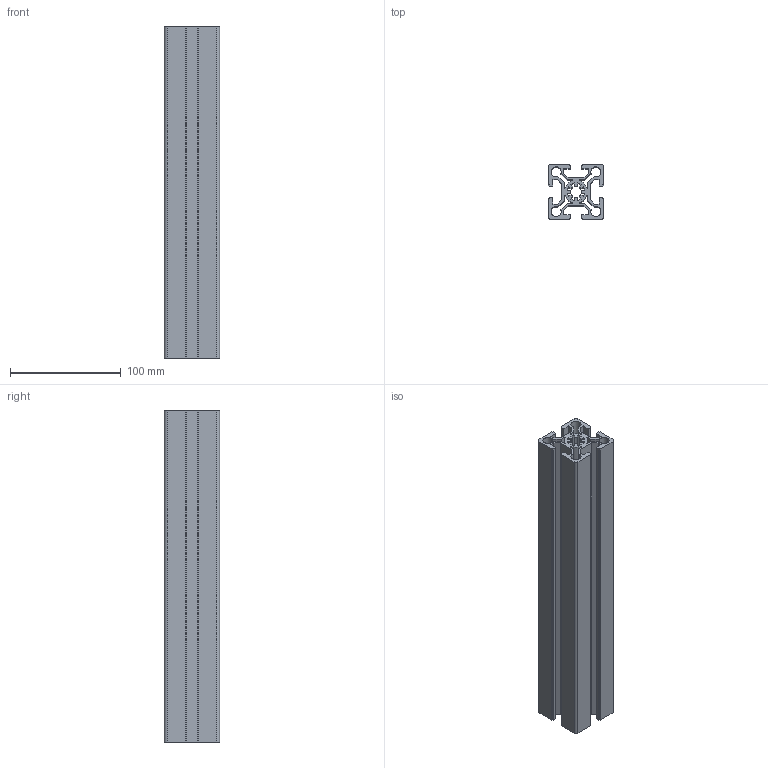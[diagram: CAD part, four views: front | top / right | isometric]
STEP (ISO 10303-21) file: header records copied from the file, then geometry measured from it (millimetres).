
FILE_DESCRIPTION (( 'STEP AP203' ), '1' );
FILE_NAME ('CE-5050-10.STEP', '2015-10-08T02:16:07', ( '' ), ( '' ), 'SwSTEP 2.0', 'SolidWorks 2013', '' );
FILE_SCHEMA (( 'CONFIG_CONTROL_DESIGN' ));
Length unit declared in the file: millimetre
Products named in the file (1): CE-5050-10
Bounding box: 50 x 50 x 300 mm (x, y, z)
Volume: 311822.3 mm3; surface area: 213831.9 mm2
Topology: 1 solids, 1 shells, 145 faces, 429 edges, 286 vertices
Faces by surface type: plane 95, cylinder 50
Entity records: 4940 total; most frequent: CARTESIAN_POINT 861, ORIENTED_EDGE 858, DIRECTION 821, EDGE_CURVE 429, LINE 329, VECTOR 329, VERTEX_POINT 286, AXIS2_PLACEMENT_3D 246
